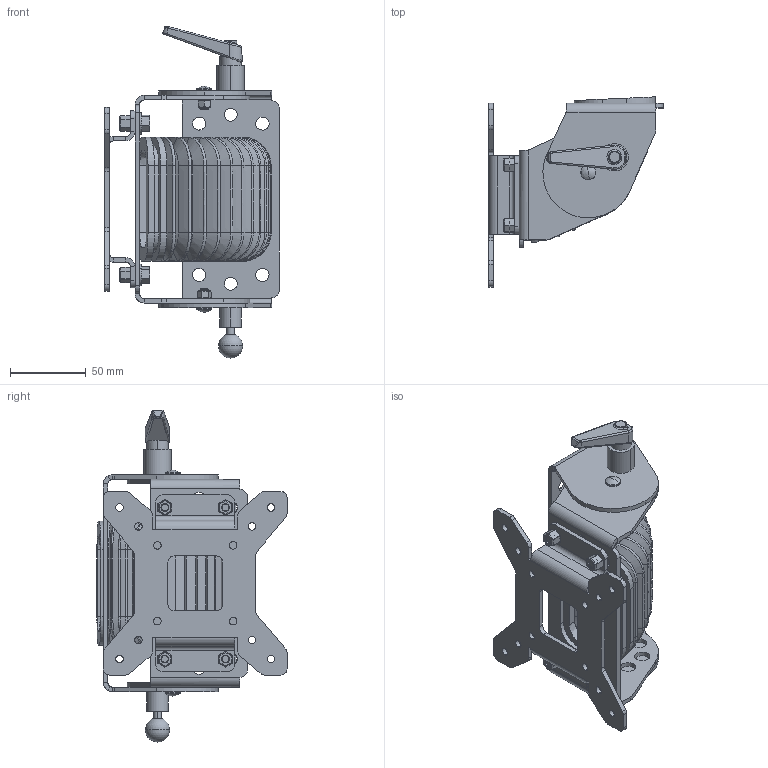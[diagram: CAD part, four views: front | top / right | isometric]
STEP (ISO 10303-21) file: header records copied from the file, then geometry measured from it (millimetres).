
FILE_DESCRIPTION (( 'STEP AP203' ), '1' );
FILE_NAME ('TP.045.3420.STEP', '2026-09-30T07:52:34', ( '' ), ( '' ), 'SwSTEP 2.0', 'SolidWorks 2015', '' );
FILE_SCHEMA (( 'CONFIG_CONTROL_DESIGN' ));
Length unit declared in the file: millimetre
Products named in the file (20): Part10^Assem10; yay; Part11^Assem10; M6-FHHB_MirrorFHH.M6x12; kovan_1; kaucuk koruk_90; Copy (3) of 6206_300__W_0__3; 45-4 K; sýkma yataðý; M5 Fiberli Somun(HDSM05000001); Part13^Assem10; TP.045.3420; vesa_45 lik omega; M6_mushroom head_square neck_m5; disli parca_3; M6 Altýköþe Perçin Somun---(HDSM06000010-05); Assem10_3; 45-4 V; 45 vesa_45 vesa; Part12^Assem10
Assembly tree (24 placements, depth 3):
  Part10^Assem10
  Part11^Assem10
  TP.045.3420
    45-4 V
    45-4 K
    sýkma yataðý
    Assem10_3
      kovan_1
      disli parca_3
      Part13^Assem10
      yay
    M6_mushroom head_square neck_m5  x2
    M5 Fiberli Somun(HDSM05000001)  x2
    kaucuk koruk_90
    Copy (3) of 6206_300__W_0__3
    45 vesa_45 vesa
      vesa_45 lik omega
      M6 Altýköþe Perçin Somun---(HDSM06000010-05)  x4
      M6-FHHB_MirrorFHH.M6x12  x4
  Part12^Assem10
Bounding box: 115.13 x 125.41 x 219.07 mm (x, y, z)
Volume: 244168.9 mm3; surface area: 291288.2 mm2
Topology: 23 solids, 24 shells, 2944 faces, 6785 edges, 3930 vertices
Faces by surface type: bspline 1411, torus 520, cylinder 494, plane 441, cone 66, sphere 12
Entity records: 274613 total; most frequent: CARTESIAN_POINT 229999, ORIENTED_EDGE 10876, EDGE_CURVE 5438, DIRECTION 4929, B_SPLINE_CURVE_WITH_KNOTS 3524, VERTEX_POINT 3102, EDGE_LOOP 2550, ADVANCED_FACE 2406
